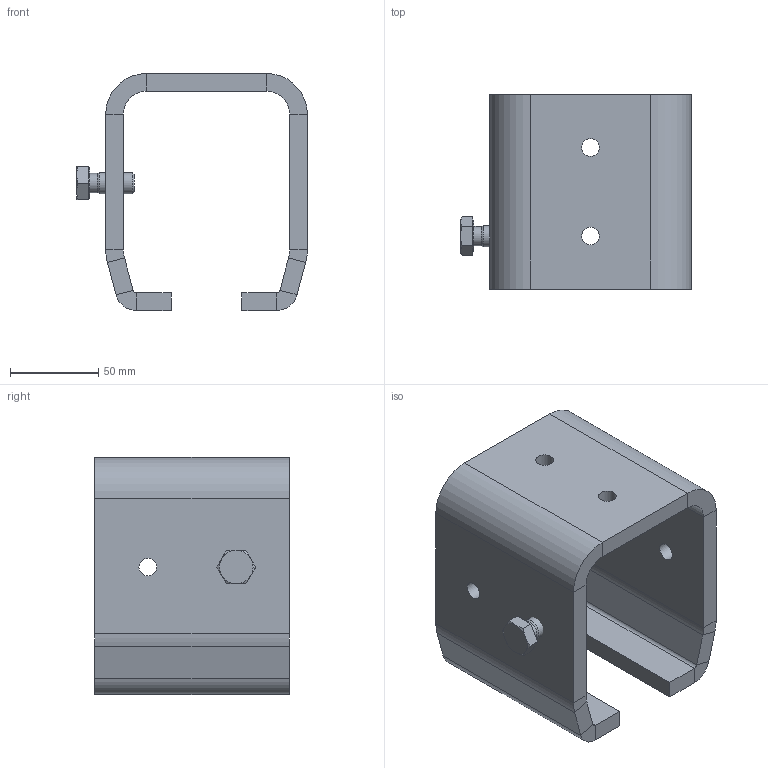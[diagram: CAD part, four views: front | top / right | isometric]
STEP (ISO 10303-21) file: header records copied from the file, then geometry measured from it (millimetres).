
FILE_DESCRIPTION(/* description */ ('Muffe Nr.5_kurz'),/* implementation_level */ '2;1');
FILE_NAME(/* name */ 'Q:\sge-ma\Produktmanagement-STB\STB\Workspace\stp\010335252.stp',/* time_stamp */ '2016-07-12T13:01:30+02:00',/* author */ ('avschreier'),/* organization */ (''),/* preprocessor_version */ 'ST-DEVELOPER v16.1',/* originating_system */ 'Autodesk Inventor 2016',/* authorisation */ '');
FILE_SCHEMA (('AUTOMOTIVE_DESIGN { 1 0 10303 214 3 1 1 }'));
Length unit declared in the file: millimetre
Products named in the file (3): 337000127; DIN_EN_ISO_4017-M12x25_en; 010335252
Assembly tree (2 placements, depth 2):
  010335252
    337000127
    DIN_EN_ISO_4017-M12x25_en
Bounding box: 130.43 x 110 x 134 mm (x, y, z)
Volume: 423839 mm3; surface area: 97575.2 mm2
Topology: 2 solids, 2 shells, 81 faces, 169 edges, 94 vertices
Faces by surface type: plane 52, cylinder 21, cone 8
Full cylindrical faces by diameter (mm): 10 x5, 10.106 x1, 11.053 x1, 12 x1, 17.2 x1
Entity records: 2104 total; most frequent: DIRECTION 366, CARTESIAN_POINT 360, ORIENTED_EDGE 314, EDGE_CURVE 157, AXIS2_PLACEMENT_3D 135, EDGE_LOOP 106, LINE 96, VECTOR 96
